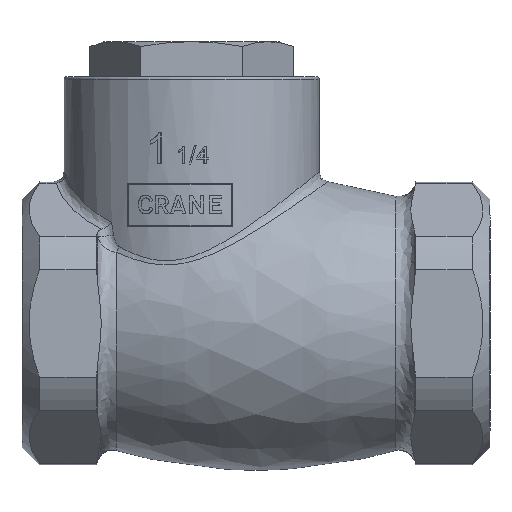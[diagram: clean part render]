
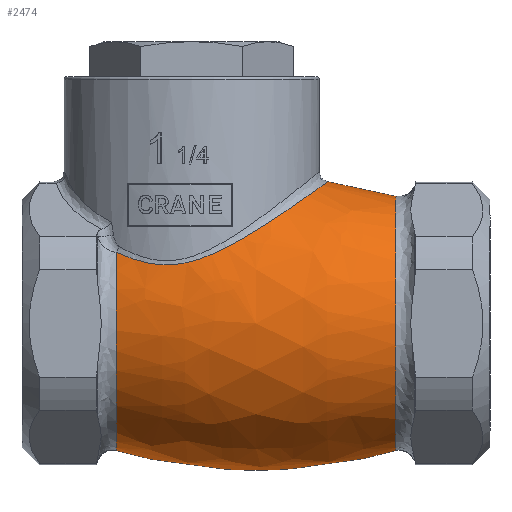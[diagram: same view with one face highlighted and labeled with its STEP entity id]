
A CAD part, front view. The second image highlights one B-rep face of the part: STEP entity #2474.
In plain terms, the highlighted free-form (B-spline) face has degree [2, 2] with [3, 9] control points.
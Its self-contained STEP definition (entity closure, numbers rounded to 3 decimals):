
#1067=CARTESIAN_POINT('',(-18.738,-25.269,0.0));
#1068=VERTEX_POINT('',#1067);
#1069=CARTESIAN_POINT('',(-18.738,0.,0.0));
#1070=DIRECTION('',(-1.0,0.0,0.0));
#1071=DIRECTION('',(0.0,-1.0,0.0));
#1072=AXIS2_PLACEMENT_3D('',#1069,#1070,#1071);
#1073=CIRCLE('',#1072,25.269);
#1074=EDGE_CURVE('',#1068,#1068,#1073,.T.);
#2360=CARTESIAN_POINT('',(-18.738,0.,-25.269));
#2361=CARTESIAN_POINT('',(-46.5,0.,-33.292));
#2362=CARTESIAN_POINT('',(-74.262,0.,-25.269));
#2363=CARTESIAN_POINT('',(-18.738,25.269,-25.269));
#2364=CARTESIAN_POINT('',(-46.5,33.292,-33.292));
#2365=CARTESIAN_POINT('',(-74.262,25.269,-25.269));
#2366=CARTESIAN_POINT('',(-18.738,25.269,0.));
#2367=CARTESIAN_POINT('',(-46.5,33.292,0.));
#2368=CARTESIAN_POINT('',(-74.262,25.269,0.));
#2369=CARTESIAN_POINT('',(-18.738,25.269,25.269));
#2370=CARTESIAN_POINT('',(-46.5,33.292,33.292));
#2371=CARTESIAN_POINT('',(-74.262,25.269,25.269));
#2372=CARTESIAN_POINT('',(-18.738,0.,25.269));
#2373=CARTESIAN_POINT('',(-46.5,0.,33.292));
#2374=CARTESIAN_POINT('',(-74.262,0.,25.269));
#2375=CARTESIAN_POINT('',(-18.738,-25.269,25.269));
#2376=CARTESIAN_POINT('',(-46.5,-33.292,33.292));
#2377=CARTESIAN_POINT('',(-74.262,-25.269,25.269));
#2378=CARTESIAN_POINT('',(-18.738,-25.269,0.));
#2379=CARTESIAN_POINT('',(-46.5,-33.292,0.));
#2380=CARTESIAN_POINT('',(-74.262,-25.269,0.));
#2381=CARTESIAN_POINT('',(-18.738,-25.269,-25.269));
#2382=CARTESIAN_POINT('',(-46.5,-33.292,-33.292));
#2383=CARTESIAN_POINT('',(-74.262,-25.269,-25.269));
#2384=CARTESIAN_POINT('',(-18.738,0.,-25.269));
#2385=CARTESIAN_POINT('',(-46.5,0.,-33.292));
#2386=CARTESIAN_POINT('',(-74.262,0.,-25.269));
#2394=(BOUNDED_SURFACE()B_SPLINE_SURFACE(2,2,((#2360,#2363,#2366,#2369,#2372,#2375,#2378,#2381,#2384),(#2361,#2364,#2367,#2370,#2373,#2376,#2379,#2382,#2385),(#2362,#2365,#2368,#2371,#2374,#2377,#2380,#2383,#2386)),.UNSPECIFIED.,.F.,.T.,.U.)B_SPLINE_SURFACE_WITH_KNOTS((3,3),(3,2,2,2,3),(-0.281,0.281),(0.0,1.571,3.142,4.712,6.283),.UNSPECIFIED.)GEOMETRIC_REPRESENTATION_ITEM()RATIONAL_B_SPLINE_SURFACE(((1.0,0.707,1.0,0.707,1.0,0.707,1.0,0.707,1.0),(0.961,0.679,0.961,0.679,0.961,0.679,0.961,0.679,0.961),(1.0,0.707,1.0,0.707,1.0,0.707,1.0,0.707,1.0)))REPRESENTATION_ITEM('')SURFACE());
#2395=ORIENTED_EDGE('',*,*,#1074,.T.);
#2396=EDGE_LOOP('',(#2395));
#2397=FACE_OUTER_BOUND('',#2396,.T.);
#2398=CARTESIAN_POINT('',(-74.262,-20.931,14.158));
#2399=VERTEX_POINT('',#2398);
#2400=CARTESIAN_POINT('',(-74.262,20.931,14.158));
#2401=VERTEX_POINT('',#2400);
#2402=CARTESIAN_POINT('',(-74.262,-20.931,14.158));
#2403=CARTESIAN_POINT('',(-73.418,-21.492,13.763));
#2404=CARTESIAN_POINT('',(-72.242,-22.185,13.257));
#2405=CARTESIAN_POINT('',(-70.361,-23.11,12.595));
#2406=CARTESIAN_POINT('',(-68.717,-23.804,12.12));
#2407=CARTESIAN_POINT('',(-66.826,-24.435,11.766));
#2408=CARTESIAN_POINT('',(-65.391,-24.805,11.644));
#2409=CARTESIAN_POINT('',(-63.932,-25.119,11.611));
#2410=CARTESIAN_POINT('',(-62.27,-25.39,11.704));
#2411=CARTESIAN_POINT('',(-60.275,-25.552,12.056));
#2412=CARTESIAN_POINT('',(-58.843,-25.572,12.442));
#2413=CARTESIAN_POINT('',(-57.193,-25.532,12.963));
#2414=CARTESIAN_POINT('',(-55.79,-25.411,13.507));
#2415=CARTESIAN_POINT('',(-54.386,-25.198,14.132));
#2416=CARTESIAN_POINT('',(-53.514,-25.041,14.54));
#2417=CARTESIAN_POINT('',(-52.079,-24.734,15.248));
#2418=CARTESIAN_POINT('',(-50.058,-24.156,16.338));
#2419=CARTESIAN_POINT('',(-47.655,-23.215,17.746));
#2420=CARTESIAN_POINT('',(-45.749,-22.253,18.928));
#2421=CARTESIAN_POINT('',(-44.29,-21.382,19.861));
#2422=CARTESIAN_POINT('',(-42.525,-20.211,21.011));
#2423=CARTESIAN_POINT('',(-40.852,-18.857,22.134));
#2424=CARTESIAN_POINT('',(-39.001,-17.028,23.399));
#2425=CARTESIAN_POINT('',(-37.852,-15.708,24.195));
#2426=CARTESIAN_POINT('',(-36.802,-14.298,24.929));
#2427=CARTESIAN_POINT('',(-35.316,-12.072,25.974));
#2428=CARTESIAN_POINT('',(-34.145,-9.693,26.808));
#2429=CARTESIAN_POINT('',(-33.412,-7.502,27.332));
#2430=CARTESIAN_POINT('',(-33.144,-6.618,27.525));
#2431=CARTESIAN_POINT('',(-32.756,-5.162,27.803));
#2432=CARTESIAN_POINT('',(-32.469,-3.536,28.009));
#2433=CARTESIAN_POINT('',(-32.277,-1.657,28.148));
#2434=CARTESIAN_POINT('',(-32.215,-0.241,28.192));
#2435=CARTESIAN_POINT('',(-32.262,1.402,28.158));
#2436=CARTESIAN_POINT('',(-32.425,3.281,28.041));
#2437=CARTESIAN_POINT('',(-32.751,5.139,27.806));
#2438=CARTESIAN_POINT('',(-33.23,6.942,27.463));
#2439=CARTESIAN_POINT('',(-33.801,8.693,27.054));
#2440=CARTESIAN_POINT('',(-34.693,10.808,26.417));
#2441=CARTESIAN_POINT('',(-36.019,13.188,25.478));
#2442=CARTESIAN_POINT('',(-37.24,14.919,24.622));
#2443=CARTESIAN_POINT('',(-38.344,16.273,23.854));
#2444=CARTESIAN_POINT('',(-39.22,17.243,23.25));
#2445=CARTESIAN_POINT('',(-40.837,18.844,22.144));
#2446=CARTESIAN_POINT('',(-42.345,20.067,21.131));
#2447=CARTESIAN_POINT('',(-44.112,21.27,19.976));
#2448=CARTESIAN_POINT('',(-45.567,22.161,19.041));
#2449=CARTESIAN_POINT('',(-48.4,23.591,17.284));
#2450=CARTESIAN_POINT('',(-51.678,24.707,15.41));
#2451=CARTESIAN_POINT('',(-54.509,25.234,14.062));
#2452=CARTESIAN_POINT('',(-56.302,25.455,13.308));
#2453=CARTESIAN_POINT('',(-57.92,25.575,12.704));
#2454=CARTESIAN_POINT('',(-60.061,25.569,12.096));
#2455=CARTESIAN_POINT('',(-62.238,25.394,11.707));
#2456=CARTESIAN_POINT('',(-64.456,25.035,11.58));
#2457=CARTESIAN_POINT('',(-66.624,24.501,11.73));
#2458=CARTESIAN_POINT('',(-68.687,23.815,12.113));
#2459=CARTESIAN_POINT('',(-71.322,22.706,12.871));
#2460=CARTESIAN_POINT('',(-73.137,21.679,13.631));
#2461=CARTESIAN_POINT('',(-74.262,20.931,14.158));
#2462=B_SPLINE_CURVE_WITH_KNOTS('',3,(#2402,#2403,#2404,#2405,#2406,#2407,#2408,#2409,#2410,#2411,#2412,#2413,#2414,#2415,#2416,#2417,#2418,#2419,#2420,#2421,#2422,#2423,#2424,#2425,#2426,#2427,#2428,#2429,#2430,#2431,#2432,#2433,#2434,#2435,#2436,#2437,#2438,#2439,#2440,#2441,#2442,#2443,#2444,#2445,#2446,#2447,#2448,#2449,#2450,#2451,#2452,#2453,#2454,#2455,#2456,#2457,#2458,#2459,#2460,#2461),.UNSPECIFIED.,.F.,.U.,(4,1,1,1,1,1,1,1,1,1,1,1,1,1,1,1,1,1,1,1,1,1,1,1,1,1,1,1,1,1,1,1,1,1,1,1,1,1,1,1,1,1,1,1,1,1,1,1,1,1,1,1,1,1,1,1,1,4),(0.0,0.339,0.452,0.678,0.904,1.074,1.131,1.357,1.583,1.752,1.809,2.11,2.211,2.286,2.412,2.713,3.015,3.316,3.467,3.618,4.07,4.221,4.522,4.673,4.824,5.427,5.54,5.577,5.728,6.03,6.105,6.331,6.482,6.633,6.934,7.085,7.236,7.537,7.839,8.14,8.253,8.441,8.592,9.044,9.12,9.346,9.647,10.25,10.552,10.627,10.853,11.079,11.306,11.532,11.758,11.984,12.21,12.662),.UNSPECIFIED.);
#2463=EDGE_CURVE('',#2399,#2401,#2462,.T.);
#2464=ORIENTED_EDGE('',*,*,#2463,.F.);
#2465=CARTESIAN_POINT('',(-74.262,0.,0.0));
#2466=DIRECTION('',(-1.0,0.0,0.0));
#2467=DIRECTION('',(0.0,-1.0,0.0));
#2468=AXIS2_PLACEMENT_3D('',#2465,#2466,#2467);
#2469=CIRCLE('',#2468,25.269);
#2470=EDGE_CURVE('',#2401,#2399,#2469,.T.);
#2471=ORIENTED_EDGE('',*,*,#2470,.F.);
#2472=EDGE_LOOP('',(#2464,#2471));
#2473=FACE_BOUND('',#2472,.T.);
#2474=ADVANCED_FACE('',(#2397,#2473),#2394,.T.);
